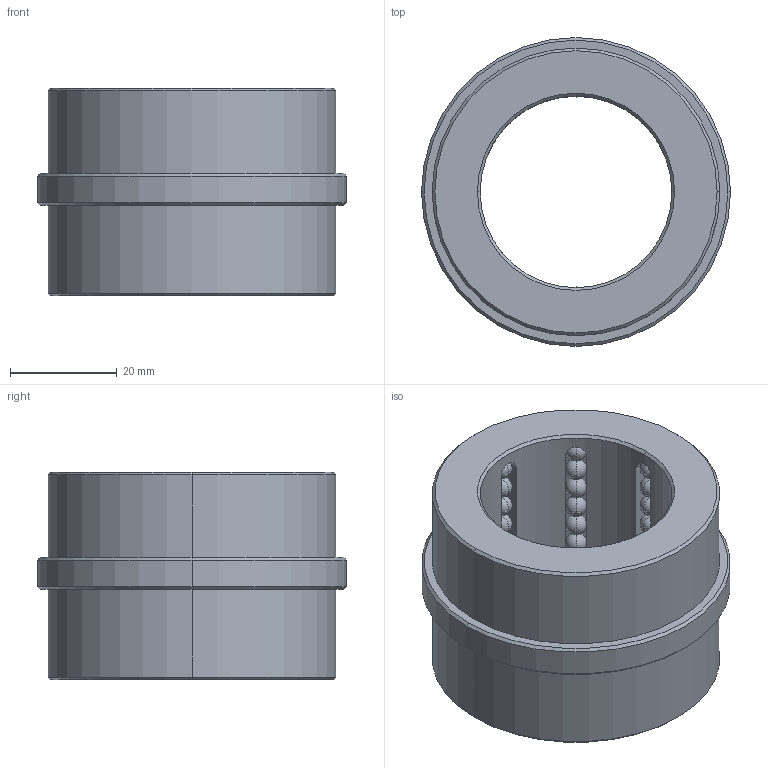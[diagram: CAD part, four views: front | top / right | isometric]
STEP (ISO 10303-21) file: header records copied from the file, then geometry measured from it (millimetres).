
FILE_DESCRIPTION((''),'2;1');
FILE_NAME('B8453622','2018-01-24T',('MANU'),(''),'PRO/ENGINEER BY PARAMETRIC TECHNOLOGY CORPORATION, 2012130','PRO/ENGINEER BY PARAMETRIC TECHNOLOGY CORPORATION, 2012130','');
FILE_SCHEMA(('CONFIG_CONTROL_DESIGN'));
Length unit declared in the file: millimetre
Products named in the file (1): B8453622
Bounding box: 58 x 58 x 39 mm (x, y, z)
Volume: 49670.9 mm3; surface area: 19570.9 mm2
Topology: 65 solids, 65 shells, 192 faces, 534 edges, 224 vertices
Faces by surface type: sphere 128, plane 28, cylinder 24, cone 12
Entity records: 4574 total; most frequent: CARTESIAN_POINT 1012, DIRECTION 814, ORIENTED_EDGE 556, AXIS2_PLACEMENT_3D 364, EDGE_CURVE 278, VERTEX_POINT 224, EDGE_LOOP 202, FACE_OUTER_BOUND 192
